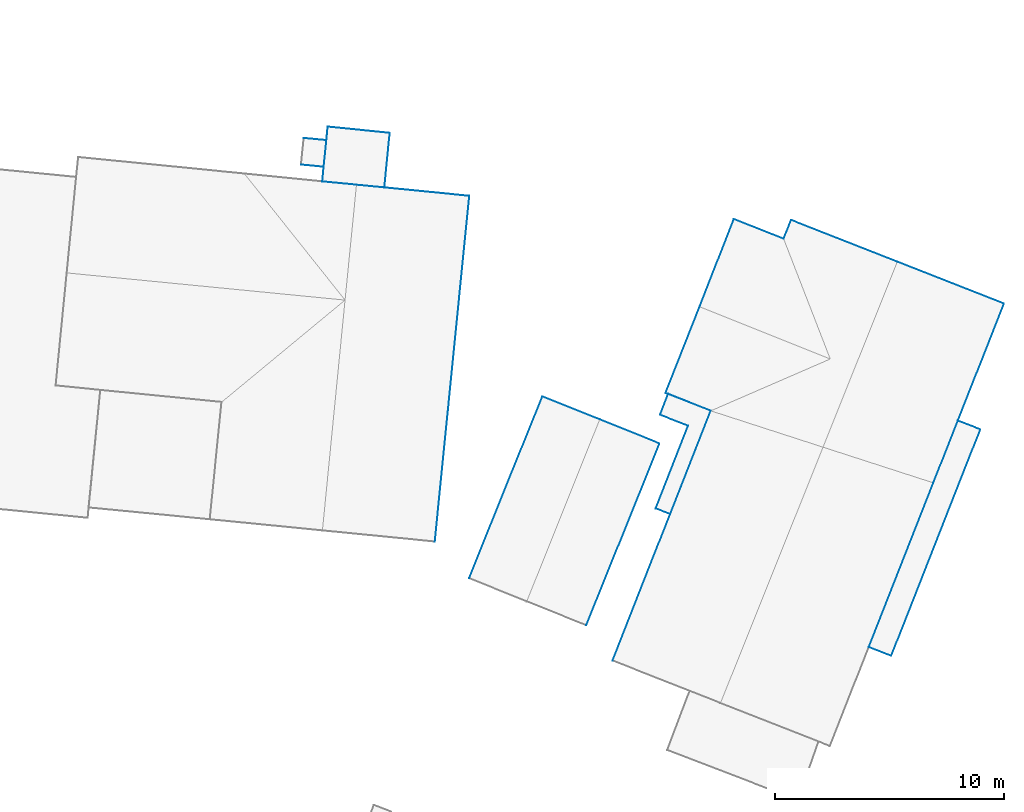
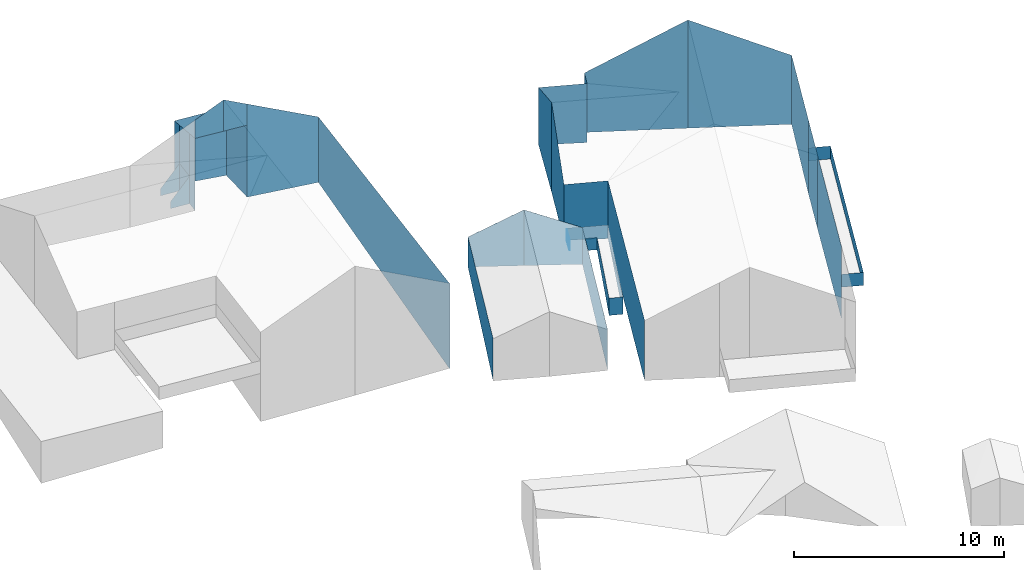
# Not in any storey, part 41 of 57: 39 walls.
"""IFC4 building model written with IfcOpenShell, lengths in metres."""

import ifcopenshell
import ifcopenshell.guid

model = None  # the IFC model being written
_history = None  # IfcOwnerHistory: only IFC2X3 demands one
_inside = {}  # id of a spatial element -> (the spatial element, [elements in it])
_under = {}  # id of a project, library or spatial element -> (it, [spatial elements below it])
_declared = {}  # id of a project -> (the project, [libraries it declares])
_typed = {}  # id of a type object -> (the type object, [elements of that type])
_made_of = {}  # id of a material, layer set ... -> (it, [elements and type objects made of it])


def new_model(schema):
    """Start an empty IFC model of exactly this schema.

    Asked for "IFC4X3", IfcOpenShell would pick the latest addendum, in which some entities
    have other attributes; the version numbers below select the first issue.
    IFC2X3 requires an IfcOwnerHistory on every rooted entity: one is made here for all.
    """
    global model, _history
    if schema == "IFC4X3":
        model = ifcopenshell.file(schema_version=(4, 3, 0, 0))
    else:
        model = ifcopenshell.file(schema=schema)
    _inside.clear()
    _under.clear()
    _declared.clear()
    _typed.clear()
    _made_of.clear()
    _history = None
    if model.schema == "IFC2X3":
        org = make("IfcOrganization", Name="unknown")
        user = make(
            "IfcPersonAndOrganization",
            ThePerson=make("IfcPerson", FamilyName="unknown"),
            TheOrganization=org,
        )
        app = make(
            "IfcApplication",
            ApplicationDeveloper=org,
            Version="unknown",
            ApplicationFullName="unknown",
            ApplicationIdentifier="unknown",
        )
        _history = make(
            "IfcOwnerHistory",
            OwningUser=user,
            OwningApplication=app,
            ChangeAction="ADDED",
            CreationDate=0,
        )
    return model


def make(cls, **values):
    """One entity of the class cls with the attributes given. An attribute that is None is left unset."""
    return model.create_entity(
        cls, **{name: value for name, value in values.items() if value is not None}
    )


def entity(cls, *values):
    """Any entity or typed value of the class cls, its attributes in the order of the schema. None: left unset."""
    e = model.create_entity(cls)
    for i, value in enumerate(values):
        if value is not None:
            e[i] = value
    return e


def rooted(cls, **values):
    """An entity with a GlobalId (a new one), such as an element, a storey or a relation."""
    return make(cls, GlobalId=ifcopenshell.guid.new(), OwnerHistory=_history, **values)


def si_unit(unit_type, name, prefix=None):
    """IfcSIUnit, for example si_unit("LENGTHUNIT", "METRE", prefix="MILLI")."""
    return make("IfcSIUnit", UnitType=unit_type, Prefix=prefix, Name=name)


def converted_unit(unit_type, name, factor, base, dimensions=None, offset=None):
    """IfcConversionBasedUnit, such as the inch: factor (a typed value) times the base unit."""
    return make(
        "IfcConversionBasedUnit"
        if offset is None
        else "IfcConversionBasedUnitWithOffset",
        ConversionOffset=offset,
        Dimensions=None
        if dimensions is None
        else entity("IfcDimensionalExponents", *dimensions),
        UnitType=unit_type,
        Name=name,
        ConversionFactor=make(
            "IfcMeasureWithUnit", ValueComponent=factor, UnitComponent=base
        ),
    )


def assignment(units):
    """IfcUnitAssignment: the units of a project."""
    return None if units is None else make("IfcUnitAssignment", Units=units)


def point(xyz):
    """IfcCartesianPoint."""
    return None if xyz is None else make("IfcCartesianPoint", Coordinates=xyz)


def direction(xyz):
    """IfcDirection."""
    return None if xyz is None else make("IfcDirection", DirectionRatios=xyz)


def frame(location, z_axis=None, x_axis=None):
    """IfcAxis2Placement3D, a coordinate frame: its origin and axes. An axis left out is left unset."""
    return make(
        "IfcAxis2Placement3D",
        Location=point(location),
        Axis=direction(z_axis),
        RefDirection=direction(x_axis),
    )


def origin():
    """The frame at (0, 0, 0) with its axes left unset."""
    return frame((0.0, 0.0, 0.0))


def place(relative_to, where):
    """IfcLocalPlacement: puts the frame where relative to a parent placement (None: the world)."""
    return make(
        "IfcLocalPlacement", PlacementRelTo=relative_to, RelativePlacement=where
    )


def context(
    kind, dimensions, precision=None, world=None, true_north=None, identifier=None
):
    """IfcGeometricRepresentationContext, for example the 3D "Model" context."""
    return make(
        "IfcGeometricRepresentationContext",
        ContextIdentifier=identifier,
        ContextType=kind,
        CoordinateSpaceDimension=dimensions,
        Precision=precision,
        WorldCoordinateSystem=world,
        TrueNorth=true_north,
    )


def subcontext(parent, identifier, kind, view, scale=None):
    """IfcGeometricRepresentationSubContext, for example "Body" below "Model"."""
    return make(
        "IfcGeometricRepresentationSubContext",
        ContextIdentifier=identifier,
        ContextType=kind,
        ParentContext=parent,
        TargetScale=scale,
        TargetView=view,
    )


def project(units=None, contexts=None):
    """IfcProject with its units and contexts."""
    return rooted(
        "IfcProject",
        Name="project",
        RepresentationContexts=contexts,
        UnitsInContext=assignment(units),
    )


def spatial(cls, under=None, at=None, **own):
    """A site, building, storey or space (cls), placed at a placement, below another one or the project."""
    s = rooted(cls, ObjectPlacement=at, **own)
    if under is not None:
        _under.setdefault(under.id(), (under, []))[1].append(s)
    return s


def faces_of(points, faces, orient=None, outer=None):
    """IfcFace entities. A face is a list of loops; a loop is a list of indices into points, from 0.

    orient and outer hold one flag for each loop. By default every Orientation is true, the
    first loop of a face is its IfcFaceOuterBound and the others are IfcFaceBound.
    """
    made = []
    for i, loops in enumerate(faces):
        bounds = []
        for j, loop in enumerate(loops):
            is_outer = j == 0 if outer is None else outer[i][j]
            bounds.append(
                make(
                    "IfcFaceOuterBound" if is_outer else "IfcFaceBound",
                    Bound=make("IfcPolyLoop", Polygon=[points[k] for k in loop]),
                    Orientation=True if orient is None else orient[i][j],
                )
            )
        made.append(make("IfcFace", Bounds=bounds))
    return made


def face_set(faces, orient=None, outer=None):
    """The faces of one IfcConnectedFaceSet. surface_model builds it on its shared points."""
    return ("IfcConnectedFaceSet", faces, orient, outer)


def surface_model(cls, points, shells):
    """IfcFaceBasedSurfaceModel or IfcShellBasedSurfaceModel (cls): surfaces that need not close."""
    shared = [point(p) for p in points]
    made = [make(c, CfsFaces=faces_of(shared, fs, o, b)) for c, fs, o, b in shells]
    if cls == "IfcFaceBasedSurfaceModel":
        return make(cls, FbsmFaces=made)
    return make(cls, SbsmBoundary=made)


def shape(context_of_items, identifier, shape_type, items):
    """IfcShapeRepresentation: the items that make up one representation, for example the "Body"."""
    return make(
        "IfcShapeRepresentation",
        ContextOfItems=context_of_items,
        RepresentationIdentifier=identifier,
        RepresentationType=shape_type,
        Items=items,
    )


def made_of(thing, what):
    """Note that an element or type object is made of a material, layer set ...; save() writes the relation."""
    if what is not None:
        _made_of.setdefault(what.id(), (what, []))[1].append(thing)
    return thing


def element(
    cls,
    number,
    at=None,
    inside=None,
    cuts=None,
    type_object=None,
    material=None,
    context=None,
    identifier="Body",
    shape_type=None,
    held_by="IfcProductDefinitionShape",
    body=None,
    shapes=None,
    **own,
):
    """One element of the class cls, such as IfcWall. Its Tag is "e" and its number.

    at: its placement. inside: the storey or other place that contains it. cuts: it is an
    opening in that element (IfcRelVoidsElement). A single representation is given by context,
    identifier, shape_type and body (its items); several are given by shapes. held_by: the class
    of the entity that holds the representations. save() writes the other relations.
    """
    e = rooted(cls, Tag="e%d" % number, ObjectPlacement=at, **own)
    if body is not None:
        shapes = [shape(context, identifier, shape_type, body)]
    if shapes is not None:
        e.Representation = make(held_by, Representations=shapes)
    if inside is not None:
        _inside.setdefault(inside.id(), (inside, []))[1].append(e)
    if cuts is not None:
        rooted(
            "IfcRelVoidsElement", RelatingBuildingElement=cuts, RelatedOpeningElement=e
        )
    if type_object is not None:
        _typed.setdefault(type_object.id(), (type_object, []))[1].append(e)
    return made_of(e, material)


def aggregate(whole, parts):
    """IfcRelAggregates: a whole, such as a stair, and the parts it consists of."""
    return rooted("IfcRelAggregates", RelatingObject=whole, RelatedObjects=parts)


def save(model, path):
    """Write the relations noted so far, then the file.

    IfcRelAggregates (storeys below a building ...), IfcRelContainedInSpatialStructure (elements
    in a storey), IfcRelDefinesByType, IfcRelAssociatesMaterial and IfcRelDeclares: one each for
    every whole, place, type object, material and project.
    """
    for whole, parts in _under.values():
        aggregate(whole, parts)
    for where, things in _inside.values():
        rooted(
            "IfcRelContainedInSpatialStructure",
            RelatedElements=things,
            RelatingStructure=where,
        )
    for kind, things in _typed.values():
        rooted("IfcRelDefinesByType", RelatedObjects=things, RelatingType=kind)
    for what, things in _made_of.values():
        rooted("IfcRelAssociatesMaterial", RelatedObjects=things, RelatingMaterial=what)
    for by, libraries in _declared.values():
        rooted("IfcRelDeclares", RelatingContext=by, RelatedDefinitions=libraries)
    model.write(path)


model = new_model("IFC4")

# Units and contexts
model_context = context("Model", 3, precision=1e-05, world=origin())
body_context = subcontext(model_context, "Body", "Model", "MODEL_VIEW")
ifc_project = project(units=[converted_unit("PLANEANGLEUNIT", "DEGREE", entity("IfcRatioMeasure", 0.0174532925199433), si_unit("PLANEANGLEUNIT", "RADIAN"), dimensions=[0, 0, 0, 0, 0, 0, 0]), si_unit("AREAUNIT", "SQUARE_METRE"), si_unit("LENGTHUNIT", "METRE")], contexts=[model_context])

# Site, building
site_placement = place(None, origin())
site = spatial("IfcSite", under=ifc_project, at=site_placement, Name="_site")
building_1_placement = place(site_placement, origin())
building_1 = spatial("IfcBuilding", under=site, at=building_1_placement, Name="_building")

# Walls
wall_1_placement = place(building_1_placement, origin())
element("IfcWall", 1, at=wall_1_placement, inside=building_1, Name="Wall", PredefinedType="NOTDEFINED", context=body_context, shape_type="SurfaceModel", body=[
    surface_model("IfcFaceBasedSurfaceModel", [(283.959, 142.226, 111.8), (280.772, 134.306, 111.8), (280.772, 134.306, 109.42), (283.959, 142.226, 109.671)], [face_set([[[0, 1, 2, 3]]])]),
])
wall_2_placement = place(building_1_placement, origin())
element("IfcWall", 2, at=wall_2_placement, inside=building_1, Name="Wall", PredefinedType="NOTDEFINED", context=body_context, shape_type="SurfaceModel", body=[
    surface_model("IfcFaceBasedSurfaceModel", [(278.854, 144.277, 111.8), (281.352, 143.278, 113.11), (281.352, 143.278, 109.869), (278.854, 144.277, 110.054)], [face_set([[[0, 1, 2, 3]]])]),
])
wall_3_placement = place(building_1_placement, origin())
element("IfcWall", 3, at=wall_3_placement, inside=building_1, Name="Wall", PredefinedType="NOTDEFINED", context=body_context, shape_type="SurfaceModel", body=[
    surface_model("IfcFaceBasedSurfaceModel", [(281.352, 143.278, 113.11), (283.959, 142.226, 111.8), (283.959, 142.226, 109.671), (281.352, 143.278, 109.869)], [face_set([[[0, 1, 2, 3]]])]),
])
wall_4_placement = place(building_1_placement, origin())
element("IfcWall", 4, at=wall_4_placement, inside=building_1, Name="Wall", PredefinedType="NOTDEFINED", context=body_context, shape_type="SurfaceModel", body=[
    surface_model("IfcFaceBasedSurfaceModel", [(275.667, 136.357, 111.8), (278.854, 144.277, 111.8), (278.854, 144.277, 110.054), (275.667, 136.357, 109.357)], [face_set([[[0, 1, 2, 3]]])]),
])

# Building
building_2_placement = place(site_placement, origin())
building_2 = spatial("IfcBuilding", under=site, at=building_2_placement, Name="_building")

# Walls
wall_5_placement = place(building_2_placement, origin())
element("IfcWall", 5, at=wall_5_placement, inside=building_2, Name="Wall", PredefinedType="NOTDEFINED", context=body_context, shape_type="SurfaceModel", body=[
    surface_model("IfcFaceBasedSurfaceModel", [(281.916, 132.768, 112.86), (286.194, 143.655, 112.87), (286.194, 143.655, 109.51), (281.916, 132.768, 109.364)], [face_set([[[0, 1, 2, 3]]])]),
])
wall_6_placement = place(building_2_placement, origin())
element("IfcWall", 6, at=wall_6_placement, inside=building_2, Name="Wall", PredefinedType="NOTDEFINED", context=body_context, shape_type="SurfaceModel", body=[
    surface_model("IfcFaceBasedSurfaceModel", [(295.896, 140.516, 112.86), (293.08, 133.357, 112.86), (293.08, 133.357, 108.654), (295.896, 140.516, 108.576)], [face_set([[[0, 1, 2, 3]]])]),
])
wall_7_placement = place(building_2_placement, origin())
element("IfcWall", 7, at=wall_7_placement, inside=building_2, Name="Wall", PredefinedType="NOTDEFINED", context=body_context, shape_type="SurfaceModel", body=[
    surface_model("IfcFaceBasedSurfaceModel", [(286.194, 143.655, 110.32), (284.427, 139.153, 109.47), (284.427, 139.153, 108.47), (286.194, 143.655, 109.51)], [face_set([[[0, 1, 2, 3]]])]),
])
wall_8_placement = place(building_2_placement, origin())
element("IfcWall", 8, at=wall_8_placement, inside=building_2, Name="Wall", PredefinedType="NOTDEFINED", context=body_context, shape_type="SurfaceModel", body=[
    surface_model("IfcFaceBasedSurfaceModel", [(297.942, 142.84, 110.52), (294.059, 132.974, 110.52), (294.059, 132.974, 111.27), (297.942, 142.84, 111.27)], [face_set([[[0, 1, 2, 3]]])]),
])
wall_9_placement = place(building_2_placement, origin())
element("IfcWall", 9, at=wall_9_placement, inside=building_2, Name="Wall", PredefinedType="NOTDEFINED", context=body_context, shape_type="SurfaceModel", body=[
    surface_model("IfcFaceBasedSurfaceModel", [(296.962, 143.222, 110.52), (297.942, 142.84, 110.52), (297.942, 142.84, 111.27), (296.962, 143.222, 111.27)], [face_set([[[0, 1, 2, 3]]])]),
])
for number, where, name in (
    (10, (0.0, 0.0, 0.0), "Wall"),
    (11, (0.0, 0.0, 0.0), "Wall"),
):
    element("IfcWall", number, at=place(building_2_placement, frame(where)), inside=building_2, Name=name, PredefinedType="NOTDEFINED", context=body_context, shape_type="SurfaceModel", body=[
        surface_model("IfcFaceBasedSurfaceModel", [(294.059, 132.974, 110.52), (293.08, 133.357, 110.52), (293.08, 133.357, 111.27), (294.059, 132.974, 111.27)], [face_set([[[0, 1, 2, 3]]])]),
    ])
wall_10_placement = place(building_2_placement, origin())
element("IfcWall", 12, at=wall_10_placement, inside=building_2, Name="Wall", PredefinedType="NOTDEFINED", context=body_context, shape_type="SurfaceModel", body=[
    surface_model("IfcFaceBasedSurfaceModel", [(297.942, 142.84, 110.52), (294.059, 132.974, 110.52), (294.059, 132.974, 111.27), (297.942, 142.84, 111.27)], [face_set([[[0, 1, 2, 3]]])]),
])
wall_11_placement = place(building_2_placement, origin())
element("IfcWall", 13, at=wall_11_placement, inside=building_2, Name="Wall", PredefinedType="NOTDEFINED", context=body_context, shape_type="SurfaceModel", body=[
    surface_model("IfcFaceBasedSurfaceModel", [(296.962, 143.222, 110.52), (297.942, 142.84, 110.52), (297.942, 142.84, 111.27), (296.962, 143.222, 111.27)], [face_set([[[0, 1, 2, 3]]])]),
])

# Building
building_3_placement = place(site_placement, origin())
building_3 = spatial("IfcBuilding", under=site, at=building_3_placement, Name="_building")

# Walls
wall_12_placement = place(building_3_placement, origin())
element("IfcWall", 14, at=wall_12_placement, inside=building_3, Name="Wall", PredefinedType="NOTDEFINED", context=body_context, shape_type="SurfaceModel", body=[
    surface_model("IfcFaceBasedSurfaceModel", [(289.69, 151.968, 112.87), (294.321, 150.149, 115.43), (294.321, 150.149, 109.144), (289.69, 151.968, 109.414)], [face_set([[[0, 1, 2, 3]]])]),
])
wall_13_placement = place(building_3_placement, origin())
element("IfcWall", 15, at=wall_13_placement, inside=building_3, Name="Wall", PredefinedType="NOTDEFINED", context=body_context, shape_type="SurfaceModel", body=[
    surface_model("IfcFaceBasedSurfaceModel", [(289.371, 151.145, 112.87), (289.69, 151.968, 112.87), (289.69, 151.968, 109.414), (289.371, 151.145, 109.437)], [face_set([[[0, 1, 2, 3]]])]),
])
wall_14_placement = place(building_3_placement, origin())
element("IfcWall", 16, at=wall_14_placement, inside=building_3, Name="Wall", PredefinedType="NOTDEFINED", context=body_context, shape_type="SurfaceModel", body=[
    surface_model("IfcFaceBasedSurfaceModel", [(287.2, 152.007, 112.87), (289.371, 151.145, 112.87), (289.371, 151.145, 109.437), (287.2, 152.007, 109.534)], [face_set([[[0, 1, 2, 3]]])]),
])
wall_15_placement = place(building_3_placement, origin())
element("IfcWall", 17, at=wall_15_placement, inside=building_3, Name="Wall", PredefinedType="NOTDEFINED", context=body_context, shape_type="SurfaceModel", body=[
    surface_model("IfcFaceBasedSurfaceModel", [(285.709, 148.189, 114.84), (287.2, 152.007, 112.87), (287.2, 152.007, 109.534), (285.709, 148.189, 109.63)], [face_set([[[0, 1, 2, 3]]])]),
])
wall_16_placement = place(building_3_placement, origin())
element("IfcWall", 18, at=wall_16_placement, inside=building_3, Name="Wall", PredefinedType="NOTDEFINED", context=body_context, shape_type="SurfaceModel", body=[
    surface_model("IfcFaceBasedSurfaceModel", [(285.208, 142.997, 110.32), (283.988, 143.476, 110.32), (283.988, 143.476, 109.674), (285.208, 142.997, 109.594)], [face_set([[[0, 1, 2, 3]]])]),
])
wall_17_placement = place(building_3_placement, origin())
element("IfcWall", 19, at=wall_17_placement, inside=building_3, Name="Wall", PredefinedType="NOTDEFINED", context=body_context, shape_type="SurfaceModel", body=[
    surface_model("IfcFaceBasedSurfaceModel", [(283.793, 139.398, 109.47), (285.208, 142.997, 110.32), (285.208, 142.997, 109.594), (283.793, 139.398, 108.47)], [face_set([[[0, 1, 2, 3]]])]),
])
wall_18_placement = place(building_3_placement, origin())
element("IfcWall", 20, at=wall_18_placement, inside=building_3, Name="Wall", PredefinedType="NOTDEFINED", context=body_context, shape_type="SurfaceModel", body=[
    surface_model("IfcFaceBasedSurfaceModel", [(284.427, 139.153, 109.47), (283.793, 139.398, 109.47), (283.793, 139.398, 108.47), (284.427, 139.153, 108.47)], [face_set([[[0, 1, 2, 3]]])]),
])
wall_19_placement = place(building_3_placement, origin())
element("IfcWall", 21, at=wall_19_placement, inside=building_3, Name="Wall", PredefinedType="NOTDEFINED", context=body_context, shape_type="SurfaceModel", body=[
    surface_model("IfcFaceBasedSurfaceModel", [(284.34, 144.389, 110.32), (286.194, 143.655, 110.32), (286.194, 143.655, 109.51), (284.34, 144.389, 109.628)], [face_set([[[0, 1, 2, 3]]])]),
])
wall_20_placement = place(building_3_placement, origin())
element("IfcWall", 22, at=wall_20_placement, inside=building_3, Name="Wall", PredefinedType="NOTDEFINED", context=body_context, shape_type="SurfaceModel", body=[
    surface_model("IfcFaceBasedSurfaceModel", [(283.988, 143.476, 110.32), (284.34, 144.389, 110.32), (284.34, 144.389, 109.628), (283.988, 143.476, 109.674)], [face_set([[[0, 1, 2, 3]]])]),
])
wall_21_placement = place(building_3_placement, origin())
element("IfcWall", 23, at=wall_21_placement, inside=building_3, Name="Wall", PredefinedType="NOTDEFINED", context=body_context, shape_type="SurfaceModel", body=[
    surface_model("IfcFaceBasedSurfaceModel", [(296.962, 143.222, 112.86), (295.896, 140.516, 112.86), (295.896, 140.516, 108.576), (296.962, 143.222, 108.576)], [face_set([[[0, 1, 2, 3]]])]),
])
wall_22_placement = place(building_3_placement, origin())
element("IfcWall", 24, at=wall_22_placement, inside=building_3, Name="Wall", PredefinedType="NOTDEFINED", context=body_context, shape_type="SurfaceModel", body=[
    surface_model("IfcFaceBasedSurfaceModel", [(298.971, 148.319, 112.86), (296.962, 143.222, 112.86), (296.962, 143.222, 108.576), (298.971, 148.319, 108.854)], [face_set([[[0, 1, 2, 3]]])]),
])
wall_23_placement = place(building_3_placement, origin())
element("IfcWall", 25, at=wall_23_placement, inside=building_3, Name="Wall", PredefinedType="NOTDEFINED", context=body_context, shape_type="SurfaceModel", body=[
    surface_model("IfcFaceBasedSurfaceModel", [(294.321, 150.149, 115.43), (298.971, 148.319, 112.86), (298.971, 148.319, 108.854), (294.321, 150.149, 109.144)], [face_set([[[0, 1, 2, 3]]])]),
])
wall_24_placement = place(building_3_placement, origin())
element("IfcWall", 26, at=wall_24_placement, inside=building_3, Name="Wall", PredefinedType="NOTDEFINED", context=body_context, shape_type="SurfaceModel", body=[
    surface_model("IfcFaceBasedSurfaceModel", [(284.221, 144.432, 112.87), (285.709, 148.189, 114.84), (285.709, 148.189, 109.63), (284.221, 144.432, 109.636)], [face_set([[[0, 1, 2, 3]]])]),
])
wall_25_placement = place(building_3_placement, origin())
element("IfcWall", 27, at=wall_25_placement, inside=building_3, Name="Wall", PredefinedType="NOTDEFINED", context=body_context, shape_type="SurfaceModel", body=[
    surface_model("IfcFaceBasedSurfaceModel", [(286.194, 143.655, 112.87), (284.221, 144.432, 112.87), (284.221, 144.432, 109.636), (286.194, 143.655, 109.51)], [face_set([[[0, 1, 2, 3]]])]),
])

# Building
building_4_placement = place(site_placement, origin())
building_4 = spatial("IfcBuilding", under=site, at=building_4_placement, Name="_building")

# Walls
wall_26_placement = place(building_4_placement, origin())
element("IfcWall", 28, at=wall_26_placement, inside=building_4, Name="Wall", PredefinedType="NOTDEFINED", context=body_context, shape_type="SurfaceModel", body=[
    surface_model("IfcFaceBasedSurfaceModel", [(269.331, 154.286, 112.59), (268.344, 154.379, 111.41), (268.344, 154.379, 111.0), (269.331, 154.286, 111.0)], [face_set([[[0, 1, 2, 3]]])]),
])
wall_27_placement = place(building_4_placement, origin())
element("IfcWall", 29, at=wall_27_placement, inside=building_4, Name="Wall", PredefinedType="NOTDEFINED", context=body_context, shape_type="SurfaceModel", body=[
    surface_model("IfcFaceBasedSurfaceModel", [(275.676, 153.017, 114.59), (274.173, 137.953, 114.59), (274.173, 137.953, 109.637), (275.676, 153.017, 110.784)], [face_set([[[0, 1, 2, 3]]])]),
])
wall_28_placement = place(building_4_placement, origin())
element("IfcWall", 30, at=wall_28_placement, inside=building_4, Name="Wall", PredefinedType="NOTDEFINED", context=body_context, shape_type="SurfaceModel", body=[
    surface_model("IfcFaceBasedSurfaceModel", [(269.331, 154.286, 115.063), (269.447, 155.444, 114.816), (269.447, 155.444, 111.0), (269.331, 154.286, 111.0)], [face_set([[[0, 1, 2, 3]]])]),
])
wall_29_placement = place(building_4_placement, origin())
element("IfcWall", 31, at=wall_29_placement, inside=building_4, Name="Wall", PredefinedType="NOTDEFINED", context=body_context, shape_type="SurfaceModel", body=[
    surface_model("IfcFaceBasedSurfaceModel", [(272.208, 155.76, 114.69), (271.973, 153.384, 115.18), (271.973, 153.384, 111.0), (272.208, 155.76, 110.742)], [face_set([[[0, 1, 2, 3]]])]),
])
wall_30_placement = place(building_4_placement, origin())
element("IfcWall", 32, at=wall_30_placement, inside=building_4, Name="Wall", PredefinedType="NOTDEFINED", context=body_context, shape_type="SurfaceModel", body=[
    surface_model("IfcFaceBasedSurfaceModel", [(269.503, 156.033, 114.69), (272.208, 155.76, 114.69), (272.208, 155.76, 110.742), (269.503, 156.033, 110.959)], [face_set([[[0, 1, 2, 3]]])]),
])
wall_31_placement = place(building_4_placement, origin())
element("IfcWall", 33, at=wall_31_placement, inside=building_4, Name="Wall", PredefinedType="NOTDEFINED", context=body_context, shape_type="SurfaceModel", body=[
    surface_model("IfcFaceBasedSurfaceModel", [(269.447, 155.444, 112.59), (269.331, 154.286, 112.59), (269.331, 154.286, 111.0), (269.447, 155.444, 111.0)], [face_set([[[0, 1, 2, 3]]])]),
])
wall_32_placement = place(building_4_placement, origin())
element("IfcWall", 34, at=wall_32_placement, inside=building_4, Name="Wall", PredefinedType="NOTDEFINED", context=body_context, shape_type="SurfaceModel", body=[
    surface_model("IfcFaceBasedSurfaceModel", [(269.447, 155.444, 114.816), (269.503, 156.033, 114.69), (269.503, 156.033, 110.959), (269.447, 155.444, 111.0)], [face_set([[[0, 1, 2, 3]]])]),
])
wall_33_placement = place(building_4_placement, origin())
element("IfcWall", 35, at=wall_33_placement, inside=building_4, Name="Wall", PredefinedType="NOTDEFINED", context=body_context, shape_type="SurfaceModel", body=[
    surface_model("IfcFaceBasedSurfaceModel", [(269.267, 153.647, 115.2), (269.331, 154.286, 115.063), (269.331, 154.286, 111.0), (269.267, 153.647, 111.0)], [face_set([[[0, 1, 2, 3]]])]),
])
wall_34_placement = place(building_4_placement, origin())
element("IfcWall", 36, at=wall_34_placement, inside=building_4, Name="Wall", PredefinedType="NOTDEFINED", context=body_context, shape_type="SurfaceModel", body=[
    surface_model("IfcFaceBasedSurfaceModel", [(268.461, 155.537, 111.41), (269.447, 155.444, 112.59), (269.447, 155.444, 111.0), (268.461, 155.537, 111.0)], [face_set([[[0, 1, 2, 3]]])]),
])
wall_35_placement = place(building_4_placement, origin())
element("IfcWall", 37, at=wall_35_placement, inside=building_4, Name="Wall", PredefinedType="NOTDEFINED", context=body_context, shape_type="SurfaceModel", body=[
    surface_model("IfcFaceBasedSurfaceModel", [(271.973, 153.384, 116.41), (275.676, 153.017, 114.59), (275.676, 153.017, 110.784), (271.973, 153.384, 111.0)], [face_set([[[0, 1, 2, 3]]])]),
])
wall_36_placement = place(building_4_placement, origin())
element("IfcWall", 38, at=wall_36_placement, inside=building_4, Name="Wall", PredefinedType="NOTDEFINED", context=body_context, shape_type="SurfaceModel", body=[
    surface_model("IfcFaceBasedSurfaceModel", [(270.755, 153.502, 117.01), (271.973, 153.384, 116.41), (271.973, 153.384, 115.18), (270.755, 153.502, 115.189)], [face_set([[[0, 1, 2, 3]]])]),
])
wall_37_placement = place(building_4_placement, origin())
element("IfcWall", 39, at=wall_37_placement, inside=building_4, Name="Wall", PredefinedType="NOTDEFINED", context=body_context, shape_type="SurfaceModel", body=[
    surface_model("IfcFaceBasedSurfaceModel", [(269.267, 153.647, 116.27), (270.755, 153.502, 117.01), (270.755, 153.502, 115.189), (269.267, 153.647, 115.2)], [face_set([[[0, 1, 2, 3]]])]),
])

save(model, "model.ifc")
